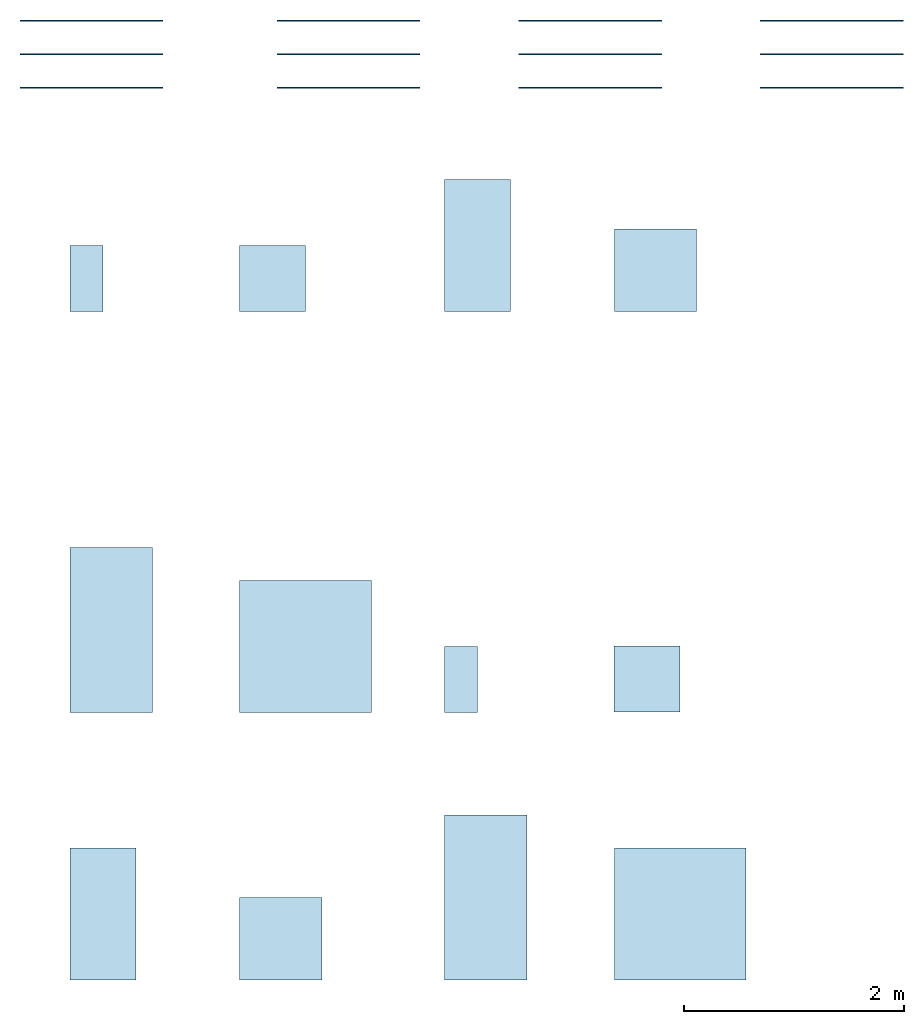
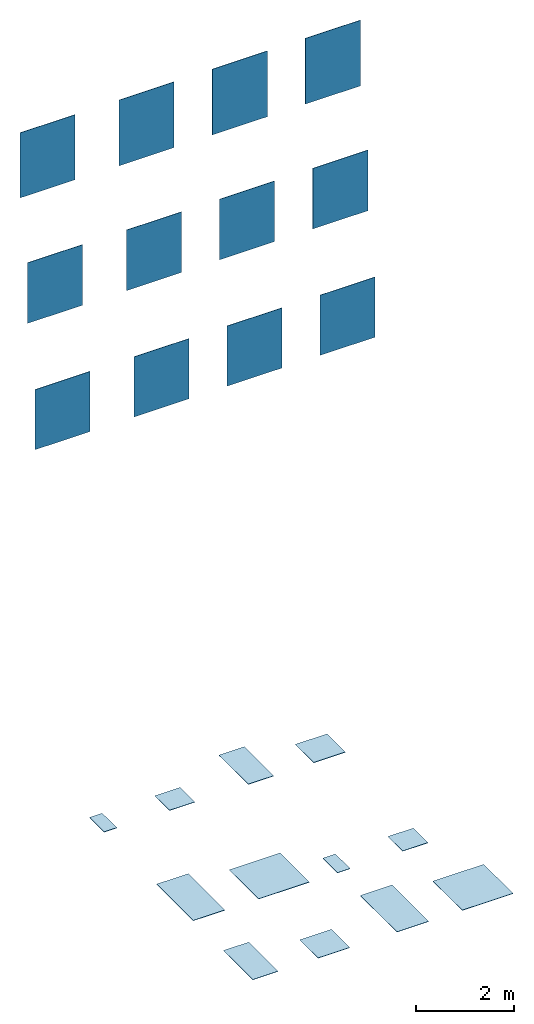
# One storey: 12 slabs, 12 walls.
"""IFC2X3 building model written with IfcOpenShell, lengths in millimetres."""

from ifc_helpers import new_model, entity, si_unit, converted_unit, derived_unit, direction, frame, frame_2d, origin, origin_2d_with_axis, place, context, subcontext, project, spatial, rectangle, extrude, material, layer, layer_set, layer_usage, type_object, element, save


model = new_model("IFC2X3")

# Units and contexts
model_context = context("Model", 3, precision=0.01, world=origin(), true_north=direction((6.12303176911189e-17, 1.0)))
body_context = subcontext(model_context, "Body", "Model", "MODEL_VIEW")
ifc_project = project(units=[si_unit("LENGTHUNIT", "METRE", prefix="MILLI"), si_unit("AREAUNIT", "SQUARE_METRE"), si_unit("VOLUMEUNIT", "CUBIC_METRE"), converted_unit("PLANEANGLEUNIT", "DEGREE", entity("IfcRatioMeasure", 0.0174532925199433), si_unit("PLANEANGLEUNIT", "RADIAN"), dimensions=[0, 0, 0, 0, 0, 0, 0]), si_unit("MASSUNIT", "GRAM", prefix="KILO"), derived_unit("MASSDENSITYUNIT", [(si_unit("MASSUNIT", "GRAM", prefix="KILO"), 1), (si_unit("LENGTHUNIT", "METRE"), -3)]), derived_unit("MOMENTOFINERTIAUNIT", [(si_unit("LENGTHUNIT", "METRE"), 4)]), si_unit("TIMEUNIT", "SECOND"), si_unit("FREQUENCYUNIT", "HERTZ"), si_unit("THERMODYNAMICTEMPERATUREUNIT", "DEGREE_CELSIUS"), derived_unit("THERMALTRANSMITTANCEUNIT", [(si_unit("MASSUNIT", "GRAM", prefix="KILO"), 1), (si_unit("THERMODYNAMICTEMPERATUREUNIT", "KELVIN"), -1), (si_unit("TIMEUNIT", "SECOND"), -3)]), derived_unit("VOLUMETRICFLOWRATEUNIT", [(si_unit("LENGTHUNIT", "METRE"), 3), (si_unit("TIMEUNIT", "SECOND"), -1)]), si_unit("ELECTRICCURRENTUNIT", "AMPERE"), si_unit("ELECTRICVOLTAGEUNIT", "VOLT"), si_unit("POWERUNIT", "WATT"), si_unit("FORCEUNIT", "NEWTON", prefix="KILO"), si_unit("ILLUMINANCEUNIT", "LUX"), si_unit("LUMINOUSFLUXUNIT", "LUMEN"), si_unit("LUMINOUSINTENSITYUNIT", "CANDELA"), derived_unit("USERDEFINED", [(si_unit("MASSUNIT", "GRAM", prefix="KILO"), -1), (si_unit("LENGTHUNIT", "METRE"), -2), (si_unit("TIMEUNIT", "SECOND"), 3), (si_unit("LUMINOUSFLUXUNIT", "LUMEN"), 1)]), derived_unit("LINEARVELOCITYUNIT", [(si_unit("LENGTHUNIT", "METRE"), 1), (si_unit("TIMEUNIT", "SECOND"), -1)]), si_unit("PRESSUREUNIT", "PASCAL"), derived_unit("USERDEFINED", [(si_unit("LENGTHUNIT", "METRE"), -2), (si_unit("MASSUNIT", "GRAM", prefix="KILO"), 1), (si_unit("TIMEUNIT", "SECOND"), -2)]), derived_unit("LINEARFORCEUNIT", [(si_unit("MASSUNIT", "GRAM", prefix="KILO"), 1), (si_unit("LENGTHUNIT", "METRE"), 1), (si_unit("TIMEUNIT", "SECOND"), -2), (si_unit("LENGTHUNIT", "METRE"), -1)]), derived_unit("PLANARFORCEUNIT", [(si_unit("MASSUNIT", "GRAM", prefix="KILO"), 1), (si_unit("LENGTHUNIT", "METRE"), 1), (si_unit("TIMEUNIT", "SECOND"), -2), (si_unit("LENGTHUNIT", "METRE"), -2)])], contexts=[model_context])

# Site, building, storey
site_placement = place(None, origin())
site = spatial("IfcSite", under=ifc_project, at=site_placement, Name="Default", CompositionType="ELEMENT")
building_placement = place(site_placement, origin())
building = spatial("IfcBuilding", under=site, at=building_placement, CompositionType="ELEMENT")
storey_placement = place(building_placement, origin())
storey = spatial("IfcBuildingStorey", under=building, at=storey_placement, Name="Level 0", CompositionType="ELEMENT", Elevation=0.0)

# Slabs
ifc_material_1 = material(Name="Block-Mist-60x120 NC86")
ifc_layer_1 = layer(ifc_material_1, 9.0)
ifc_material_2 = material(Name="<Unnamed>")
ifc_layer_2 = layer(ifc_material_2, 1.0)
ifc_layer_set_1 = layer_set([ifc_layer_1, ifc_layer_2], Name="Floor:Floor_Tiles_Refin-Block-Mist-60x120 NC86")
ifc_layer_usage_1 = layer_usage(ifc_layer_set_1, "AXIS3", "POSITIVE", 0.0)
slab_type_1 = type_object("IfcSlabType", Name="Floor:Floor_Tiles_Refin-Block-Mist-60x120 NC86", PredefinedType="FLOOR", material=ifc_layer_set_1)
slab_1_placement = place(storey_placement, origin())
element("IfcSlab", 1, at=slab_1_placement, inside=storey, type_object=slab_type_1, material=ifc_layer_usage_1, Name="Floor:Floor_Tiles_Refin-Block-Mist-60x120 NC86", ObjectType="Floor:Floor_Tiles_Refin-Block-Mist-60x120 NC86", PredefinedType="FLOOR", context=body_context, shape_type="SweptSolid", body=[
    extrude(rectangle(XDim=1200.0, YDim=600.0, at=frame_2d((0.0, 1.08002495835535e-12), x_axis=(1.0, 0.0))), frame((10082.3946694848, 6089.46237428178, 0.0), z_axis=(0.0, 0.0, -1.0), x_axis=(0.0, 1.0, 0.0)), (0.0, 0.0, 1.0), 10.0),
])
ifc_material_3 = material(Name="Block-Mist-30x60 MX26")
ifc_layer_3 = layer(ifc_material_3, 9.0)
ifc_layer_4 = layer(ifc_material_2, 1.0)
ifc_layer_set_2 = layer_set([ifc_layer_3, ifc_layer_4], Name="Floor:Floor_Tiles_Refin-Block-Mist-30x60 MX26")
ifc_layer_usage_2 = layer_usage(ifc_layer_set_2, "AXIS3", "POSITIVE", 0.0)
slab_type_2 = type_object("IfcSlabType", Name="Floor:Floor_Tiles_Refin-Block-Mist-30x60 MX26", PredefinedType="FLOOR", material=ifc_layer_set_2)
slab_2_placement = place(storey_placement, origin())
element("IfcSlab", 2, at=slab_2_placement, inside=storey, type_object=slab_type_2, material=ifc_layer_usage_2, Name="Floor:Floor_Tiles_Refin-Block-Mist-30x60 MX26", ObjectType="Floor:Floor_Tiles_Refin-Block-Mist-30x60 MX26", PredefinedType="FLOOR", context=body_context, shape_type="SweptSolid", body=[
    extrude(rectangle(XDim=600.0, YDim=300.0, at=frame_2d((0.0, -5.40012479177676e-13), x_axis=(1.0, 0.0))), frame((6524.37520617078, 5789.4623742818, 0.0), z_axis=(0.0, 0.0, -1.0), x_axis=(0.0, 1.0, 0.0)), (0.0, 0.0, 1.0), 10.0),
])
ifc_material_4 = material(Name="Block-Mist-120x120 MY58")
ifc_layer_5 = layer(ifc_material_4, 9.0)
ifc_layer_6 = layer(ifc_material_2, 1.0)
ifc_layer_set_3 = layer_set([ifc_layer_5, ifc_layer_6], Name="Floor:Floor_Tiles_Refin-Block-Mist-120x120 MY58")
ifc_layer_usage_3 = layer_usage(ifc_layer_set_3, "AXIS3", "POSITIVE", 0.0)
slab_type_3 = type_object("IfcSlabType", Name="Floor:Floor_Tiles_Refin-Block-Mist-120x120 MY58", PredefinedType="FLOOR", material=ifc_layer_set_3)
slab_3_placement = place(storey_placement, origin())
element("IfcSlab", 3, at=slab_3_placement, inside=storey, type_object=slab_type_3, material=ifc_layer_usage_3, Name="Floor:Floor_Tiles_Refin-Block-Mist-120x120 MY58", ObjectType="Floor:Floor_Tiles_Refin-Block-Mist-120x120 MY58", PredefinedType="FLOOR", context=body_context, shape_type="SweptSolid", body=[
    extrude(rectangle(XDim=1200.0, YDim=1200.0, at=origin_2d_with_axis()), frame((8517.39240545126, 2439.4623742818, 0.0), z_axis=(0.0, 0.0, -1.0), x_axis=(0.0, 1.0, 0.0)), (0.0, 0.0, 1.0), 10.0),
])
ifc_material_5 = material(Name="Block-Mist-75x150 MW45")
ifc_layer_7 = layer(ifc_material_5, 9.0)
ifc_layer_8 = layer(ifc_material_2, 1.0)
ifc_layer_set_4 = layer_set([ifc_layer_7, ifc_layer_8], Name="Floor:Floor_Tiles_Refin-Block-Mist-75x150 MW45")
ifc_layer_usage_4 = layer_usage(ifc_layer_set_4, "AXIS3", "POSITIVE", 0.0)
slab_type_4 = type_object("IfcSlabType", Name="Floor:Floor_Tiles_Refin-Block-Mist-75x150 MW45", PredefinedType="FLOOR", material=ifc_layer_set_4)
slab_4_placement = place(storey_placement, origin())
element("IfcSlab", 4, at=slab_4_placement, inside=storey, type_object=slab_type_4, material=ifc_layer_usage_4, Name="Floor:Floor_Tiles_Refin-Block-Mist-75x150 MW45", ObjectType="Floor:Floor_Tiles_Refin-Block-Mist-75x150 MW45", PredefinedType="FLOOR", context=body_context, shape_type="SweptSolid", body=[
    extrude(rectangle(XDim=1500.0, YDim=750.000000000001, at=frame_2d((0.0, 1.08002495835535e-12), x_axis=(1.0, 0.0))), frame((6749.37520617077, 2589.4623742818, 0.0), z_axis=(0.0, 0.0, -1.0), x_axis=(0.0, 1.0, 0.0)), (0.0, 0.0, 1.0), 10.0),
])
ifc_material_6 = material(Name="Block-Mist-60x60 MX50")
ifc_layer_9 = layer(ifc_material_6, 9.0)
ifc_layer_10 = layer(ifc_material_2, 1.0)
ifc_layer_set_5 = layer_set([ifc_layer_9, ifc_layer_10], Name="Floor:Floor_Tiles_Refin-Block-Mist-60x60 MX50")
ifc_layer_usage_5 = layer_usage(ifc_layer_set_5, "AXIS3", "POSITIVE", 0.0)
slab_type_5 = type_object("IfcSlabType", Name="Floor:Floor_Tiles_Refin-Block-Mist-60x60 MX50", PredefinedType="FLOOR", material=ifc_layer_set_5)
slab_5_placement = place(storey_placement, origin())
element("IfcSlab", 5, at=slab_5_placement, inside=storey, type_object=slab_type_5, material=ifc_layer_usage_5, Name="Floor:Floor_Tiles_Refin-Block-Mist-60x60 MX50", ObjectType="Floor:Floor_Tiles_Refin-Block-Mist-60x60 MX50", PredefinedType="FLOOR", context=body_context, shape_type="SweptSolid", body=[
    extrude(rectangle(XDim=600.0, YDim=600.0, at=origin_2d_with_axis()), frame((8217.39240545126, 5788.41920639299, 0.0), z_axis=(0.0, 0.0, -1.0), x_axis=(0.0, 1.0, 0.0)), (0.0, 0.0, 1.0), 10.0),
])
ifc_material_7 = material(Name="Block-Mist-Soft-30x60 MX27")
ifc_layer_11 = layer(ifc_material_7, 9.0)
ifc_layer_12 = layer(ifc_material_2, 1.0)
ifc_layer_set_6 = layer_set([ifc_layer_11, ifc_layer_12], Name="Floor:Floor_Tiles_Refin-Block-Mist-Soft-30x60 MX27")
ifc_layer_usage_6 = layer_usage(ifc_layer_set_6, "AXIS3", "POSITIVE", 0.0)
slab_type_6 = type_object("IfcSlabType", Name="Floor:Floor_Tiles_Refin-Block-Mist-Soft-30x60 MX27", PredefinedType="FLOOR", material=ifc_layer_set_6)
slab_6_placement = place(storey_placement, origin())
element("IfcSlab", 6, at=slab_6_placement, inside=storey, type_object=slab_type_6, material=ifc_layer_usage_6, Name="Floor:Floor_Tiles_Refin-Block-Mist-Soft-30x60 MX27", ObjectType="Floor:Floor_Tiles_Refin-Block-Mist-Soft-30x60 MX27", PredefinedType="FLOOR", context=body_context, shape_type="SweptSolid", body=[
    extrude(rectangle(XDim=600.0, YDim=300.000000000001, at=origin_2d_with_axis()), frame((9932.39466948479, 2139.46237428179, 0.0), z_axis=(0.0, 0.0, -1.0), x_axis=(0.0, 1.0, 0.0)), (0.0, 0.0, 1.0), 10.0),
])
ifc_material_8 = material(Name="Block-Mist-75x75 MX89")
ifc_layer_13 = layer(ifc_material_8, 9.0)
ifc_layer_14 = layer(ifc_material_2, 1.0)
ifc_layer_set_7 = layer_set([ifc_layer_13, ifc_layer_14], Name="Floor:Floor_Tiles_Refin-Block-Mist-75x75 MX89")
ifc_layer_usage_7 = layer_usage(ifc_layer_set_7, "AXIS3", "POSITIVE", 0.0)
slab_type_7 = type_object("IfcSlabType", Name="Floor:Floor_Tiles_Refin-Block-Mist-75x75 MX89", PredefinedType="FLOOR", material=ifc_layer_set_7)
slab_7_placement = place(storey_placement, origin())
element("IfcSlab", 7, at=slab_7_placement, inside=storey, type_object=slab_type_7, material=ifc_layer_usage_7, Name="Floor:Floor_Tiles_Refin-Block-Mist-75x75 MX89", ObjectType="Floor:Floor_Tiles_Refin-Block-Mist-75x75 MX89", PredefinedType="FLOOR", context=body_context, shape_type="SweptSolid", body=[
    extrude(rectangle(XDim=750.0, YDim=750.000000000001, at=frame_2d((-5.40012479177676e-13, 1.08002495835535e-12), x_axis=(1.0, 0.0))), frame((11702.1861418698, 5864.46237428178, 0.0), z_axis=(0.0, 0.0, -1.0), x_axis=(0.0, 1.0, 0.0)), (0.0, 0.0, 1.0), 10.0),
])
ifc_material_9 = material(Name="Block-Mist-Soft-60x60 MX51")
ifc_layer_15 = layer(ifc_material_9, 9.0)
ifc_layer_16 = layer(ifc_material_2, 1.0)
ifc_layer_set_8 = layer_set([ifc_layer_15, ifc_layer_16], Name="Floor:Floor_Tiles_Refin-Block-Mist-Soft-60x60 MX51")
ifc_layer_usage_8 = layer_usage(ifc_layer_set_8, "AXIS3", "POSITIVE", 0.0)
slab_type_8 = type_object("IfcSlabType", Name="Floor:Floor_Tiles_Refin-Block-Mist-Soft-60x60 MX51", PredefinedType="FLOOR", material=ifc_layer_set_8)
slab_8_placement = place(storey_placement, origin())
element("IfcSlab", 8, at=slab_8_placement, inside=storey, type_object=slab_type_8, material=ifc_layer_usage_8, Name="Floor:Floor_Tiles_Refin-Block-Mist-Soft-60x60 MX51", ObjectType="Floor:Floor_Tiles_Refin-Block-Mist-Soft-60x60 MX51", PredefinedType="FLOOR", context=body_context, shape_type="SweptSolid", body=[
    extrude(rectangle(XDim=600.0, YDim=600.0, at=frame_2d((0.0, 1.08002495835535e-12), x_axis=(1.0, 0.0))), frame((11625.4118687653, 2143.43672349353, 0.0), z_axis=(0.0, 0.0, -1.0), x_axis=(0.0, 1.0, 0.0)), (0.0, 0.0, 1.0), 10.0),
])
ifc_material_10 = material(Name="Block-Mist-Soft-75x75 MX90")
ifc_layer_17 = layer(ifc_material_10, 9.0)
ifc_layer_18 = layer(ifc_material_2, 1.0)
ifc_layer_set_9 = layer_set([ifc_layer_17, ifc_layer_18], Name="Floor:Floor_Tiles_Refin-Block-Mist-Soft-75x75 MX90")
ifc_layer_usage_9 = layer_usage(ifc_layer_set_9, "AXIS3", "POSITIVE", 0.0)
slab_type_9 = type_object("IfcSlabType", Name="Floor:Floor_Tiles_Refin-Block-Mist-Soft-75x75 MX90", PredefinedType="FLOOR", material=ifc_layer_set_9)
slab_9_placement = place(storey_placement, origin())
element("IfcSlab", 9, at=slab_9_placement, inside=storey, type_object=slab_type_9, material=ifc_layer_usage_9, Name="Floor:Floor_Tiles_Refin-Block-Mist-Soft-75x75 MX90", ObjectType="Floor:Floor_Tiles_Refin-Block-Mist-Soft-75x75 MX90", PredefinedType="FLOOR", context=body_context, shape_type="SweptSolid", body=[
    extrude(rectangle(XDim=750.0, YDim=750.000000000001, at=origin_2d_with_axis()), frame((8292.39240545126, -221.563276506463, 0.0), z_axis=(0.0, 0.0, -1.0), x_axis=(0.0, 1.0, 0.0)), (0.0, 0.0, 1.0), 10.0),
])
ifc_material_11 = material(Name="Block-Mist-Soft-75x150 MW50")
ifc_layer_19 = layer(ifc_material_11, 9.0)
ifc_layer_20 = layer(ifc_material_2, 1.0)
ifc_layer_set_10 = layer_set([ifc_layer_19, ifc_layer_20], Name="Floor:Floor_Tiles_Refin-Block-Mist-Soft-75x150 MW50")
ifc_layer_usage_10 = layer_usage(ifc_layer_set_10, "AXIS3", "POSITIVE", 0.0)
slab_type_10 = type_object("IfcSlabType", Name="Floor:Floor_Tiles_Refin-Block-Mist-Soft-75x150 MW50", PredefinedType="FLOOR", material=ifc_layer_set_10)
slab_10_placement = place(storey_placement, origin())
element("IfcSlab", 10, at=slab_10_placement, inside=storey, type_object=slab_type_10, material=ifc_layer_usage_10, Name="Floor:Floor_Tiles_Refin-Block-Mist-Soft-75x150 MW50", ObjectType="Floor:Floor_Tiles_Refin-Block-Mist-Soft-75x150 MW50", PredefinedType="FLOOR", context=body_context, shape_type="SweptSolid", body=[
    extrude(rectangle(XDim=1500.0, YDim=750.000000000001, at=frame_2d((0.0, 1.08002495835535e-12), x_axis=(1.0, 0.0))), frame((10157.3946694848, 153.436723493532, 0.0), z_axis=(0.0, 0.0, -1.0), x_axis=(0.0, 1.0, 0.0)), (0.0, 0.0, 1.0), 10.0),
])
ifc_material_12 = material(Name="Block-Mist-Soft-60x120 NC87")
ifc_layer_21 = layer(ifc_material_12, 9.0)
ifc_layer_22 = layer(ifc_material_2, 1.0)
ifc_layer_set_11 = layer_set([ifc_layer_21, ifc_layer_22], Name="Floor:Floor_Tiles_Refin-Block-Mist-Soft-60x120 NC87")
ifc_layer_usage_11 = layer_usage(ifc_layer_set_11, "AXIS3", "POSITIVE", 0.0)
slab_type_11 = type_object("IfcSlabType", Name="Floor:Floor_Tiles_Refin-Block-Mist-Soft-60x120 NC87", PredefinedType="FLOOR", material=ifc_layer_set_11)
slab_11_placement = place(storey_placement, origin())
element("IfcSlab", 11, at=slab_11_placement, inside=storey, type_object=slab_type_11, material=ifc_layer_usage_11, Name="Floor:Floor_Tiles_Refin-Block-Mist-Soft-60x120 NC87", ObjectType="Floor:Floor_Tiles_Refin-Block-Mist-Soft-60x120 NC87", PredefinedType="FLOOR", context=body_context, shape_type="SweptSolid", body=[
    extrude(rectangle(XDim=1200.0, YDim=600.0, at=origin_2d_with_axis()), frame((6674.37520617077, 3.43672349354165, 0.0), z_axis=(0.0, 0.0, -1.0), x_axis=(0.0, 1.0, 0.0)), (0.0, 0.0, 1.0), 10.0),
])
ifc_material_13 = material(Name="Block-Mist-Soft-120x120 BY59")
ifc_layer_23 = layer(ifc_material_13, 9.0)
ifc_layer_24 = layer(ifc_material_2, 1.0)
ifc_layer_set_12 = layer_set([ifc_layer_23, ifc_layer_24], Name="Floor:Floor_Tiles_Refin-Block-Mist-Soft-120x120 BY59")
ifc_layer_usage_12 = layer_usage(ifc_layer_set_12, "AXIS3", "POSITIVE", 0.0)
slab_type_12 = type_object("IfcSlabType", Name="Floor:Floor_Tiles_Refin-Block-Mist-Soft-120x120 BY59", PredefinedType="FLOOR", material=ifc_layer_set_12)
slab_12_placement = place(storey_placement, origin())
element("IfcSlab", 12, at=slab_12_placement, inside=storey, type_object=slab_type_12, material=ifc_layer_usage_12, Name="Floor:Floor_Tiles_Refin-Block-Mist-Soft-120x120 BY59", ObjectType="Floor:Floor_Tiles_Refin-Block-Mist-Soft-120x120 BY59", PredefinedType="FLOOR", context=body_context, shape_type="SweptSolid", body=[
    extrude(rectangle(XDim=1200.0, YDim=1200.0, at=origin_2d_with_axis()), frame((11927.1861418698, 3.43672349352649, 0.0), z_axis=(0.0, 0.0, -1.0), x_axis=(0.0, 1.0, 0.0)), (0.0, 0.0, 1.0), 10.0),
])

# Walls
ifc_layer_25 = layer(ifc_material_2, 1.0)
ifc_layer_26 = layer(ifc_material_6, 9.0)
ifc_layer_set_13 = layer_set([ifc_layer_25, ifc_layer_26], Name="Basic Wall:Wall_Tiles_Refin-Block-Mist-60x60 MX50")
ifc_layer_usage_13 = layer_usage(ifc_layer_set_13, "AXIS2", "NEGATIVE", 5.0)
wall_type_1 = type_object("IfcWallType", Name="Basic Wall:Wall_Tiles_Refin-Block-Mist-60x60 MX50", PredefinedType="STANDARD", material=ifc_layer_set_13)
wall_1_placement = place(storey_placement, frame((8257.37520617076, 8137.38386313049, 14387.6770443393)))
element("IfcWallStandardCase", 13, at=wall_1_placement, inside=storey, type_object=wall_type_1, material=ifc_layer_usage_13, Name="Basic Wall:Wall_Tiles_Refin-Block-Mist-60x60 MX50", ObjectType="Basic Wall:Wall_Tiles_Refin-Block-Mist-60x60 MX50", context=body_context, shape_type="SweptSolid", body=[
    extrude(rectangle(XDim=1300.0, YDim=9.99999999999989, at=frame_2d((650.0, 7.63833440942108e-14), x_axis=(-1.0, 0.0))), origin(), (0.0, 0.0, 1.0), 1641.74173522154),
])
ifc_layer_27 = layer(ifc_material_2, 1.0)
ifc_layer_28 = layer(ifc_material_1, 9.0)
ifc_layer_set_14 = layer_set([ifc_layer_27, ifc_layer_28], Name="Basic Wall:Wall_Tiles_Refin-Block-Mist-60x120 NC86")
ifc_layer_usage_14 = layer_usage(ifc_layer_set_14, "AXIS2", "NEGATIVE", 5.0)
wall_type_2 = type_object("IfcWallType", Name="Basic Wall:Wall_Tiles_Refin-Block-Mist-60x120 NC86", PredefinedType="STANDARD", material=ifc_layer_set_14)
wall_2_placement = place(storey_placement, frame((10457.3752061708, 8137.38386313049, 14387.6770443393)))
element("IfcWallStandardCase", 14, at=wall_2_placement, inside=storey, type_object=wall_type_2, material=ifc_layer_usage_14, Name="Basic Wall:Wall_Tiles_Refin-Block-Mist-60x120 NC86", ObjectType="Basic Wall:Wall_Tiles_Refin-Block-Mist-60x120 NC86", context=body_context, shape_type="SweptSolid", body=[
    extrude(rectangle(XDim=1300.0, YDim=9.99999999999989, at=frame_2d((650.0, 7.63833440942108e-14), x_axis=(-1.0, 0.0))), origin(), (0.0, 0.0, 1.0), 1641.74173522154),
])
ifc_layer_29 = layer(ifc_material_2, 1.0)
ifc_layer_30 = layer(ifc_material_3, 9.0)
ifc_layer_set_15 = layer_set([ifc_layer_29, ifc_layer_30], Name="Basic Wall:Wall_Tiles_Refin-Block-Mist-30x60 MX26")
ifc_layer_usage_15 = layer_usage(ifc_layer_set_15, "AXIS2", "NEGATIVE", 5.0)
wall_type_3 = type_object("IfcWallType", Name="Basic Wall:Wall_Tiles_Refin-Block-Mist-30x60 MX26", PredefinedType="STANDARD", material=ifc_layer_set_15)
wall_3_placement = place(storey_placement, frame((5917.37520617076, 8137.38386313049, 14403.726734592)))
element("IfcWallStandardCase", 15, at=wall_3_placement, inside=storey, type_object=wall_type_3, material=ifc_layer_usage_15, Name="Basic Wall:Wall_Tiles_Refin-Block-Mist-30x60 MX26", ObjectType="Basic Wall:Wall_Tiles_Refin-Block-Mist-30x60 MX26", context=body_context, shape_type="SweptSolid", body=[
    extrude(rectangle(XDim=1300.0, YDim=9.99999999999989, at=frame_2d((650.0, 7.63833440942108e-14), x_axis=(-1.0, 0.0))), origin(), (0.0, 0.0, 1.0), 1625.69204496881),
])
ifc_layer_31 = layer(ifc_material_2, 1.0)
ifc_layer_32 = layer(ifc_material_5, 9.0)
ifc_layer_set_16 = layer_set([ifc_layer_31, ifc_layer_32], Name="Basic Wall:Wall_Tiles_Refin-Block-Mist-75x150 MW45")
ifc_layer_usage_16 = layer_usage(ifc_layer_set_16, "AXIS2", "NEGATIVE", 5.0)
wall_type_4 = type_object("IfcWallType", Name="Basic Wall:Wall_Tiles_Refin-Block-Mist-75x150 MW45", PredefinedType="STANDARD", material=ifc_layer_set_16)
wall_4_placement = place(storey_placement, frame((5917.37520617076, 7832.38386313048, 11452.5436262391)))
element("IfcWallStandardCase", 16, at=wall_4_placement, inside=storey, type_object=wall_type_4, material=ifc_layer_usage_16, Name="Basic Wall:Wall_Tiles_Refin-Block-Mist-75x150 MW45", ObjectType="Basic Wall:Wall_Tiles_Refin-Block-Mist-75x150 MW45", context=body_context, shape_type="SweptSolid", body=[
    extrude(rectangle(XDim=1300.0, YDim=9.99999999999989, at=frame_2d((650.0, 0.0), x_axis=(-1.0, 0.0))), origin(), (0.0, 0.0, 1.0), 1513.19855655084),
])
ifc_layer_33 = layer(ifc_material_2, 1.0)
ifc_layer_34 = layer(ifc_material_4, 9.0)
ifc_layer_set_17 = layer_set([ifc_layer_33, ifc_layer_34], Name="Basic Wall:Wall_Tiles_Refin-Block-Mist-120x120 MY58")
ifc_layer_usage_17 = layer_usage(ifc_layer_set_17, "AXIS2", "NEGATIVE", 5.0)
wall_type_5 = type_object("IfcWallType", Name="Basic Wall:Wall_Tiles_Refin-Block-Mist-120x120 MY58", PredefinedType="STANDARD", material=ifc_layer_set_17)
wall_5_placement = place(storey_placement, frame((8257.37520617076, 7832.38386313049, 11452.5436262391)))
element("IfcWallStandardCase", 17, at=wall_5_placement, inside=storey, type_object=wall_type_5, material=ifc_layer_usage_17, Name="Basic Wall:Wall_Tiles_Refin-Block-Mist-120x120 MY58", ObjectType="Basic Wall:Wall_Tiles_Refin-Block-Mist-120x120 MY58", context=body_context, shape_type="SweptSolid", body=[
    extrude(rectangle(XDim=1300.0, YDim=9.99999999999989, at=frame_2d((650.0, 0.0), x_axis=(-1.0, 0.0))), origin(), (0.0, 0.0, 1.0), 1513.19855655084),
])
ifc_layer_35 = layer(ifc_material_2, 1.0)
ifc_layer_36 = layer(ifc_material_7, 9.0)
ifc_layer_set_18 = layer_set([ifc_layer_35, ifc_layer_36], Name="Basic Wall:Wall_Tiles_Refin-Block-Mist-Soft-30x60 MX27")
ifc_layer_usage_18 = layer_usage(ifc_layer_set_18, "AXIS2", "NEGATIVE", 5.0)
wall_type_6 = type_object("IfcWallType", Name="Basic Wall:Wall_Tiles_Refin-Block-Mist-Soft-30x60 MX27", PredefinedType="STANDARD", material=ifc_layer_set_18)
wall_6_placement = place(storey_placement, frame((10457.3752061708, 7832.38386313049, 11452.5436262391)))
element("IfcWallStandardCase", 18, at=wall_6_placement, inside=storey, type_object=wall_type_6, material=ifc_layer_usage_18, Name="Basic Wall:Wall_Tiles_Refin-Block-Mist-Soft-30x60 MX27", ObjectType="Basic Wall:Wall_Tiles_Refin-Block-Mist-Soft-30x60 MX27", context=body_context, shape_type="SweptSolid", body=[
    extrude(rectangle(XDim=1300.0, YDim=9.99999999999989, at=frame_2d((650.000000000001, 0.0), x_axis=(-1.0, 0.0))), origin(), (0.0, 0.0, 1.0), 1513.19855655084),
])
ifc_layer_37 = layer(ifc_material_2, 1.0)
ifc_layer_38 = layer(ifc_material_12, 9.0)
ifc_layer_set_19 = layer_set([ifc_layer_37, ifc_layer_38], Name="Basic Wall:Wall_Tiles_Refin-Block-Mist-Soft-60x120 NC87")
ifc_layer_usage_19 = layer_usage(ifc_layer_set_19, "AXIS2", "NEGATIVE", 5.0)
wall_type_7 = type_object("IfcWallType", Name="Basic Wall:Wall_Tiles_Refin-Block-Mist-Soft-60x120 NC87", PredefinedType="STANDARD", material=ifc_layer_set_19)
wall_7_placement = place(storey_placement, frame((5917.37520617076, 7527.38386313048, 8479.10272143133)))
element("IfcWallStandardCase", 19, at=wall_7_placement, inside=storey, type_object=wall_type_7, material=ifc_layer_usage_19, Name="Basic Wall:Wall_Tiles_Refin-Block-Mist-Soft-60x120 NC87", ObjectType="Basic Wall:Wall_Tiles_Refin-Block-Mist-Soft-60x120 NC87", context=body_context, shape_type="SweptSolid", body=[
    extrude(rectangle(XDim=1300.0, YDim=9.99999999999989, at=frame_2d((650.0, 0.0), x_axis=(-1.0, 0.0))), origin(), (0.0, 0.0, 1.0), 1502.57401590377),
])
ifc_layer_39 = layer(ifc_material_2, 1.0)
ifc_layer_40 = layer(ifc_material_10, 9.0)
ifc_layer_set_20 = layer_set([ifc_layer_39, ifc_layer_40], Name="Basic Wall:Wall_Tiles_Refin-Block-Mist-Soft-75x75 MX90")
ifc_layer_usage_20 = layer_usage(ifc_layer_set_20, "AXIS2", "NEGATIVE", 5.0)
wall_type_8 = type_object("IfcWallType", Name="Basic Wall:Wall_Tiles_Refin-Block-Mist-Soft-75x75 MX90", PredefinedType="STANDARD", material=ifc_layer_set_20)
wall_8_placement = place(storey_placement, frame((8257.37520617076, 7527.38386313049, 8479.10272143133)))
element("IfcWallStandardCase", 20, at=wall_8_placement, inside=storey, type_object=wall_type_8, material=ifc_layer_usage_20, Name="Basic Wall:Wall_Tiles_Refin-Block-Mist-Soft-75x75 MX90", ObjectType="Basic Wall:Wall_Tiles_Refin-Block-Mist-Soft-75x75 MX90", context=body_context, shape_type="SweptSolid", body=[
    extrude(rectangle(XDim=1300.0, YDim=9.99999999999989, at=frame_2d((650.0, 0.0), x_axis=(-1.0, 0.0))), origin(), (0.0, 0.0, 1.0), 1502.57401590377),
])
ifc_layer_41 = layer(ifc_material_2, 1.0)
ifc_layer_42 = layer(ifc_material_11, 9.0)
ifc_layer_set_21 = layer_set([ifc_layer_41, ifc_layer_42], Name="Basic Wall:Wall_Tiles_Refin-Block-Mist-Soft-75x150 MW50")
ifc_layer_usage_21 = layer_usage(ifc_layer_set_21, "AXIS2", "NEGATIVE", 5.0)
wall_type_9 = type_object("IfcWallType", Name="Basic Wall:Wall_Tiles_Refin-Block-Mist-Soft-75x150 MW50", PredefinedType="STANDARD", material=ifc_layer_set_21)
wall_9_placement = place(storey_placement, frame((10457.3752061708, 7527.38386313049, 8479.10272143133)))
element("IfcWallStandardCase", 21, at=wall_9_placement, inside=storey, type_object=wall_type_9, material=ifc_layer_usage_21, Name="Basic Wall:Wall_Tiles_Refin-Block-Mist-Soft-75x150 MW50", ObjectType="Basic Wall:Wall_Tiles_Refin-Block-Mist-Soft-75x150 MW50", context=body_context, shape_type="SweptSolid", body=[
    extrude(rectangle(XDim=1300.0, YDim=9.99999999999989, at=frame_2d((650.000000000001, 0.0), x_axis=(-1.0, 0.0))), origin(), (0.0, 0.0, 1.0), 1502.57401590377),
])
ifc_layer_43 = layer(ifc_material_2, 1.0)
ifc_layer_44 = layer(ifc_material_8, 9.0)
ifc_layer_set_22 = layer_set([ifc_layer_43, ifc_layer_44], Name="Basic Wall:Wall_Tiles_Refin-Block-Mist-75x75 MX89")
ifc_layer_usage_22 = layer_usage(ifc_layer_set_22, "AXIS2", "NEGATIVE", 5.0)
wall_type_10 = type_object("IfcWallType", Name="Basic Wall:Wall_Tiles_Refin-Block-Mist-75x75 MX89", PredefinedType="STANDARD", material=ifc_layer_set_22)
wall_10_placement = place(storey_placement, frame((12657.3752061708, 8137.3838631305, 14387.6770443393)))
element("IfcWallStandardCase", 22, at=wall_10_placement, inside=storey, type_object=wall_type_10, material=ifc_layer_usage_22, Name="Basic Wall:Wall_Tiles_Refin-Block-Mist-75x75 MX89", ObjectType="Basic Wall:Wall_Tiles_Refin-Block-Mist-75x75 MX89", context=body_context, shape_type="SweptSolid", body=[
    extrude(rectangle(XDim=1300.0, YDim=9.99999999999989, at=frame_2d((650.0, 7.63833440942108e-14), x_axis=(-1.0, 0.0))), origin(), (0.0, 0.0, 1.0), 1641.74173522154),
])
ifc_layer_45 = layer(ifc_material_2, 1.0)
ifc_layer_46 = layer(ifc_material_9, 9.0)
ifc_layer_set_23 = layer_set([ifc_layer_45, ifc_layer_46], Name="Basic Wall:Wall_Tiles_Refin-Block-Mist-Soft-60x60 MX51")
ifc_layer_usage_23 = layer_usage(ifc_layer_set_23, "AXIS2", "NEGATIVE", 5.0)
wall_type_11 = type_object("IfcWallType", Name="Basic Wall:Wall_Tiles_Refin-Block-Mist-Soft-60x60 MX51", PredefinedType="STANDARD", material=ifc_layer_set_23)
wall_11_placement = place(storey_placement, frame((12657.3752061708, 7832.3838631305, 11452.5436262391)))
element("IfcWallStandardCase", 23, at=wall_11_placement, inside=storey, type_object=wall_type_11, material=ifc_layer_usage_23, Name="Basic Wall:Wall_Tiles_Refin-Block-Mist-Soft-60x60 MX51", ObjectType="Basic Wall:Wall_Tiles_Refin-Block-Mist-Soft-60x60 MX51", context=body_context, shape_type="SweptSolid", body=[
    extrude(rectangle(XDim=1300.0, YDim=9.99999999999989, at=frame_2d((650.0, 0.0), x_axis=(-1.0, 0.0))), origin(), (0.0, 0.0, 1.0), 1513.19855655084),
])
ifc_layer_47 = layer(ifc_material_2, 1.0)
ifc_layer_48 = layer(ifc_material_13, 9.0)
ifc_layer_set_24 = layer_set([ifc_layer_47, ifc_layer_48], Name="Basic Wall:Wall_Tiles_Refin-Block-Mist-Soft-120x120 BY59")
ifc_layer_usage_24 = layer_usage(ifc_layer_set_24, "AXIS2", "NEGATIVE", 5.0)
wall_type_12 = type_object("IfcWallType", Name="Basic Wall:Wall_Tiles_Refin-Block-Mist-Soft-120x120 BY59", PredefinedType="STANDARD", material=ifc_layer_set_24)
wall_12_placement = place(storey_placement, frame((12657.3752061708, 7527.3838631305, 8479.10272143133)))
element("IfcWallStandardCase", 24, at=wall_12_placement, inside=storey, type_object=wall_type_12, material=ifc_layer_usage_24, Name="Basic Wall:Wall_Tiles_Refin-Block-Mist-Soft-120x120 BY59", ObjectType="Basic Wall:Wall_Tiles_Refin-Block-Mist-Soft-120x120 BY59", context=body_context, shape_type="SweptSolid", body=[
    extrude(rectangle(XDim=1300.0, YDim=9.99999999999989, at=frame_2d((650.0, 0.0), x_axis=(-1.0, 0.0))), origin(), (0.0, 0.0, 1.0), 1502.57401590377),
])

save(model, "model.ifc")
